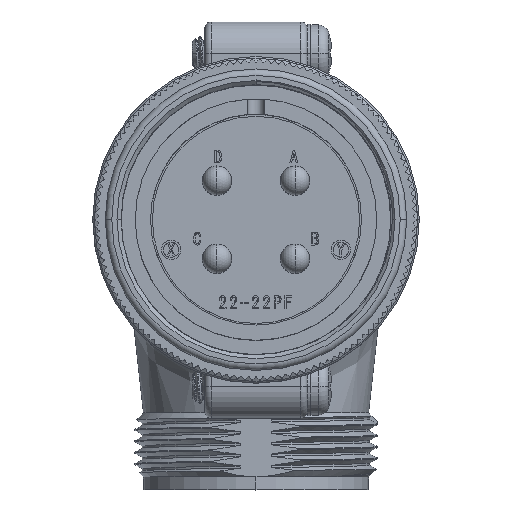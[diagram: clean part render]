
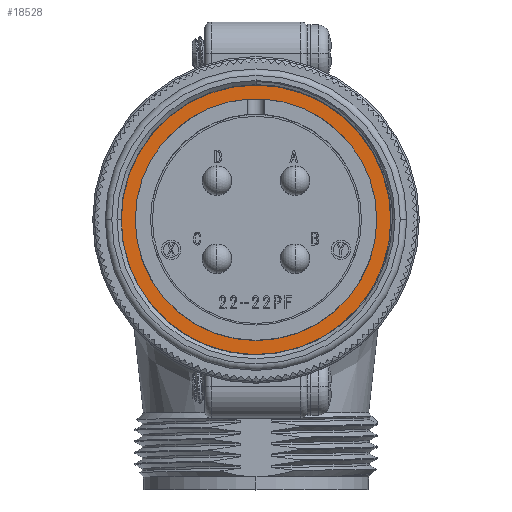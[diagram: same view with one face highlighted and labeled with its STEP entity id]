
A CAD part, top view. The second image highlights one B-rep face of the part: STEP entity #18528.
In plain terms, the highlighted planar face has unit normal (0, 0, 1).
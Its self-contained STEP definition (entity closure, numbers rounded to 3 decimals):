
#3710 = CIRCLE ( 'NONE', #10104, 14.945 ) ;
#8238 = AXIS2_PLACEMENT_3D ( 'NONE', #120879, #52465, #132352 ) ;
#8953 = AXIS2_PLACEMENT_3D ( 'NONE', #107481, #39074, #119022 ) ;
#9056 = CARTESIAN_POINT ( 'NONE',  ( -16.685, 0., -18.26 ) ) ;
#9469 = CIRCLE ( 'NONE', #8238, 16.685 ) ;
#10104 = AXIS2_PLACEMENT_3D ( 'NONE', #32596, #112520, #44124 ) ;
#10788 = CIRCLE ( 'NONE', #136931, 14.945 ) ;
#18528 = ADVANCED_FACE ( 'NONE', ( #123012, #92619 ), #113656, .F. ) ;
#20163 = CARTESIAN_POINT ( 'NONE',  ( -14.945, 0., -18.26 ) ) ;
#21769 = CARTESIAN_POINT ( 'NONE',  ( 0., 0., -18.26 ) ) ;
#22778 = ORIENTED_EDGE ( 'NONE', *, *, #49755, .F. ) ;
#23286 = DIRECTION ( 'NONE',  ( 0., 0., -1. ) ) ;
#32596 = CARTESIAN_POINT ( 'NONE',  ( 0., 0., -18.26 ) ) ;
#33209 = DIRECTION ( 'NONE',  ( -1., 0., 0. ) ) ;
#38812 = VERTEX_POINT ( 'NONE', #98248 ) ;
#39074 = DIRECTION ( 'NONE',  ( 0., 0., -1. ) ) ;
#40702 = EDGE_LOOP ( 'NONE', ( #97296, #69451 ) ) ;
#44124 = DIRECTION ( 'NONE',  ( -1., 0., 0. ) ) ;
#49755 = EDGE_CURVE ( 'NONE', #119384, #132990, #9469, .T. ) ;
#52465 = DIRECTION ( 'NONE',  ( 0., 0., -1. ) ) ;
#56884 = EDGE_CURVE ( 'NONE', #132990, #119384, #97197, .T. ) ;
#59269 = AXIS2_PLACEMENT_3D ( 'NONE', #68750, #23286, #103150 ) ;
#62626 = CARTESIAN_POINT ( 'NONE',  ( 16.685, 0., -18.26 ) ) ;
#68750 = CARTESIAN_POINT ( 'NONE',  ( 0., 16.685, -18.26 ) ) ;
#69451 = ORIENTED_EDGE ( 'NONE', *, *, #131866, .T. ) ;
#75934 = EDGE_LOOP ( 'NONE', ( #22778, #120277 ) ) ;
#92619 = FACE_BOUND ( 'NONE', #40702, .T. ) ;
#97197 = CIRCLE ( 'NONE', #8953, 16.685 ) ;
#97296 = ORIENTED_EDGE ( 'NONE', *, *, #105844, .T. ) ;
#98248 = CARTESIAN_POINT ( 'NONE',  ( 14.945, 0., -18.26 ) ) ;
#98561 = VERTEX_POINT ( 'NONE', #20163 ) ;
#101605 = DIRECTION ( 'NONE',  ( 0., 0., -1. ) ) ;
#103150 = DIRECTION ( 'NONE',  ( -1., 0., 0. ) ) ;
#105844 = EDGE_CURVE ( 'NONE', #98561, #38812, #10788, .T. ) ;
#107481 = CARTESIAN_POINT ( 'NONE',  ( 0., 0., -18.26 ) ) ;
#112520 = DIRECTION ( 'NONE',  ( 0., 0., -1. ) ) ;
#113656 = PLANE ( 'NONE',  #59269 ) ;
#119022 = DIRECTION ( 'NONE',  ( -1., 0., 0. ) ) ;
#119384 = VERTEX_POINT ( 'NONE', #9056 ) ;
#120277 = ORIENTED_EDGE ( 'NONE', *, *, #56884, .F. ) ;
#120879 = CARTESIAN_POINT ( 'NONE',  ( 0., 0., -18.26 ) ) ;
#123012 = FACE_OUTER_BOUND ( 'NONE', #75934, .T. ) ;
#131866 = EDGE_CURVE ( 'NONE', #38812, #98561, #3710, .T. ) ;
#132352 = DIRECTION ( 'NONE',  ( -1., 0., 0. ) ) ;
#132990 = VERTEX_POINT ( 'NONE', #62626 ) ;
#136931 = AXIS2_PLACEMENT_3D ( 'NONE', #21769, #101605, #33209 ) ;
